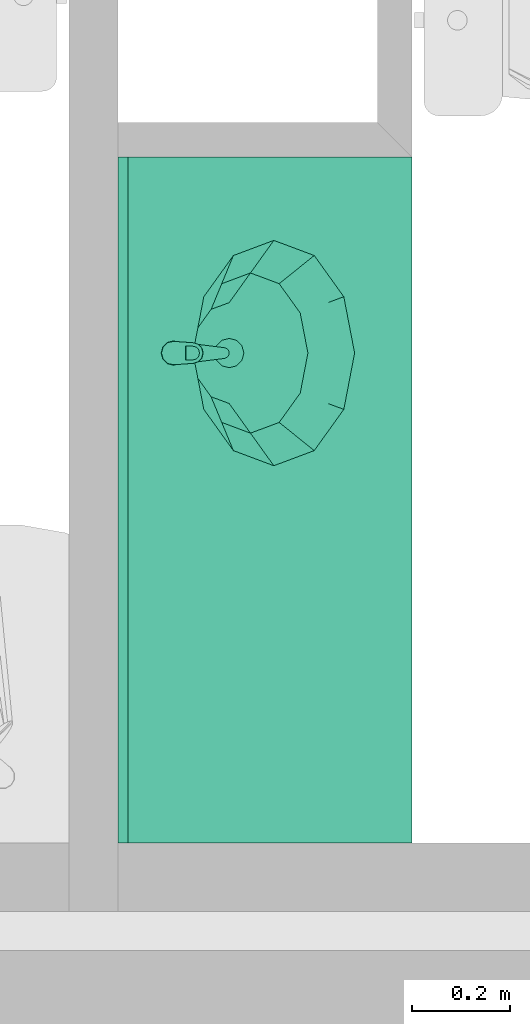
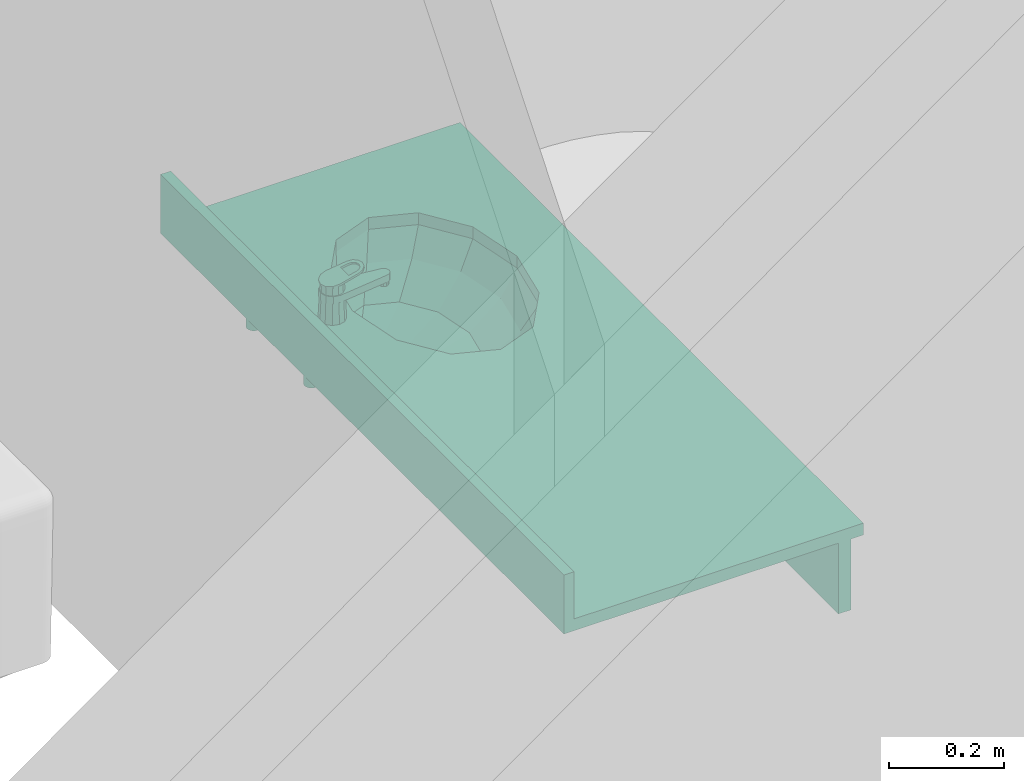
# One storey, part 30 of 34: 1 distribution element.
"""IFC2X3 building model written with IfcOpenShell, lengths in metres."""

from ifc_helpers import new_model, entity, si_unit, converted_unit, derived_unit, money_unit, direction, frame, origin_with_axes, place, context, subcontext, project, spatial, open_shell, faceted_brep, surface_model, type_object, element, save


model = new_model("IFC2X3")

# Units and contexts
model_context = context("Model", 3, precision=1e-05, world=origin_with_axes(), true_north=direction((0.0, 1.0)))
body_context = subcontext(model_context, "Body", "Model", "MODEL_VIEW")
ifc_project = project(units=[si_unit("LENGTHUNIT", "METRE"), si_unit("AREAUNIT", "SQUARE_METRE"), si_unit("VOLUMEUNIT", "CUBIC_METRE"), converted_unit("PLANEANGLEUNIT", "DEGREE", entity("IfcPlaneAngleMeasure", 0.0174532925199), si_unit("PLANEANGLEUNIT", "RADIAN"), dimensions=[0, 0, 0, 0, 0, 0, 0]), money_unit("CHF"), converted_unit("TIMEUNIT", "Year", entity("IfcTimeMeasure", 31556926.0), si_unit("TIMEUNIT", "SECOND"), dimensions=[0, 0, 1, 0, 0, 0, 0]), si_unit("MASSUNIT", "GRAM", prefix="KILO"), si_unit("THERMODYNAMICTEMPERATUREUNIT", "DEGREE_CELSIUS"), si_unit("LUMINOUSINTENSITYUNIT", "LUMEN"), si_unit("ENERGYUNIT", "JOULE", prefix="MEGA"), derived_unit("THERMALCONDUCTANCEUNIT", [(si_unit("POWERUNIT", "WATT"), 1), (si_unit("LENGTHUNIT", "METRE"), -1), (si_unit("THERMODYNAMICTEMPERATUREUNIT", "KELVIN"), -1)]), derived_unit("SPECIFICHEATCAPACITYUNIT", [(si_unit("ENERGYUNIT", "JOULE"), 1), (si_unit("MASSUNIT", "GRAM", prefix="KILO"), -1), (si_unit("THERMODYNAMICTEMPERATUREUNIT", "KELVIN"), -1)]), derived_unit("MASSDENSITYUNIT", [(si_unit("MASSUNIT", "GRAM", prefix="KILO"), 1), (si_unit("VOLUMEUNIT", "CUBIC_METRE"), -1)])], contexts=[model_context])

# Site, building, storey
site_placement = place(None, origin_with_axes())
site = spatial("IfcSite", under=ifc_project, at=site_placement, Name="Site", CompositionType="ELEMENT")
building_placement = place(site_placement, origin_with_axes())
building = spatial("IfcBuilding", under=site, at=building_placement, Name="Bâtiment", CompositionType="ELEMENT")
storey_placement = place(building_placement, origin_with_axes())
storey = spatial("IfcBuildingStorey", under=building, at=storey_placement, Name="RDC", CompositionType="ELEMENT", Elevation=-5.32907e-15)

# Distribution element
distribution_element_type = type_object("IfcDistributionElementType", Name="Plan multi vasques 25")
distribution_element_placement = place(storey_placement, frame((1669.3948228, 183.17004191, 0.47), z_axis=(0.0, 0.0, 1.0), x_axis=(0.0, 1.0, 0.0)))
element("IfcDistributionElement", 1, at=distribution_element_placement, inside=storey, type_object=distribution_element_type, Name="Protection-011", context=body_context, shape_type="SurfaceModel", body=[
    surface_model("IfcShellBasedSurfaceModel", [(0.4, -0.027, 0.875), (0.4, -0.027, 0.855), (0.403494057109, -0.0265399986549, 0.855), (0.403494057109, -0.0265399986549, 0.875), (0.396505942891, -0.0265399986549, 0.875), (0.396505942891, -0.0265399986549, 0.855), (0.40675, -0.0251913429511, 0.855), (0.40675, -0.0251913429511, 0.875), (0.39325, -0.0251913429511, 0.875), (0.39325, -0.0251913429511, 0.855), (0.409545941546, -0.023045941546, 0.855), (0.409545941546, -0.023045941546, 0.875), (0.390454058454, -0.023045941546, 0.875), (0.390454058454, -0.023045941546, 0.855), (0.411691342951, -0.02025, 0.855), (0.411691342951, -0.02025, 0.875), (0.388308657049, -0.02025, 0.875), (0.388308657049, -0.02025, 0.855), (0.413039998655, -0.0169940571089, 0.855), (0.413039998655, -0.0169940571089, 0.875), (0.386960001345, -0.0169940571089, 0.875), (0.386960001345, -0.0169940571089, 0.855), (0.4135, -0.0135, 0.855), (0.4135, -0.0135, 0.875), (0.3865, -0.0135, 0.875), (0.3865, -0.0135, 0.855), (0.413039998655, -0.0100059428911, 0.855), (0.413039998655, -0.0100059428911, 0.875), (0.386960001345, -0.0100059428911, 0.875), (0.386960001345, -0.0100059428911, 0.855), (0.411691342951, -0.00675, 0.855), (0.411691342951, -0.00675, 0.875), (0.388308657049, -0.00675, 0.875), (0.388308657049, -0.00675, 0.855), (0.409545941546, -0.00395405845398, 0.855), (0.409545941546, -0.00395405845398, 0.875), (0.390454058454, -0.00395405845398, 0.875), (0.390454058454, -0.00395405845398, 0.855), (0.40675, -0.00180865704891, 0.855), (0.40675, -0.00180865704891, 0.875), (0.39325, -0.00180865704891, 0.875), (0.39325, -0.00180865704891, 0.855), (0.403494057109, -0.000460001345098, 0.855), (0.403494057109, -0.000460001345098, 0.875), (0.396505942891, -0.000460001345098, 0.875), (0.396505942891, -0.000460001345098, 0.855), (0.4, 0.0, 0.855), (0.4, 0.0, 0.875)], [open_shell([[[0, 1, 2, 3]], [[4, 5, 1, 0]], [[3, 2, 6, 7]], [[8, 9, 5, 4]], [[7, 6, 10, 11]], [[12, 13, 9, 8]], [[11, 10, 14, 15]], [[16, 17, 13, 12]], [[15, 14, 18, 19]], [[20, 21, 17, 16]], [[19, 18, 22, 23]], [[24, 25, 21, 20]], [[23, 22, 26, 27]], [[28, 29, 25, 24]], [[27, 26, 30, 31]], [[32, 33, 29, 28]], [[31, 30, 34, 35]], [[36, 37, 33, 32]], [[35, 34, 38, 39]], [[40, 41, 37, 36]], [[39, 38, 42, 43]], [[44, 45, 41, 40]], [[43, 42, 46, 47]], [[47, 46, 45, 44]]])]),
    surface_model("IfcShellBasedSurfaceModel", [(0.2, -0.027, 0.875), (0.2, -0.027, 0.855), (0.203494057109, -0.0265399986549, 0.855), (0.203494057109, -0.0265399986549, 0.875), (0.196505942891, -0.0265399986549, 0.875), (0.196505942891, -0.0265399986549, 0.855), (0.20675, -0.0251913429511, 0.855), (0.20675, -0.0251913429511, 0.875), (0.19325, -0.0251913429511, 0.875), (0.19325, -0.0251913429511, 0.855), (0.209545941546, -0.023045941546, 0.855), (0.209545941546, -0.023045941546, 0.875), (0.190454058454, -0.023045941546, 0.875), (0.190454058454, -0.023045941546, 0.855), (0.211691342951, -0.02025, 0.855), (0.211691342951, -0.02025, 0.875), (0.188308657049, -0.02025, 0.875), (0.188308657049, -0.02025, 0.855), (0.213039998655, -0.0169940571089, 0.855), (0.213039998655, -0.0169940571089, 0.875), (0.186960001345, -0.0169940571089, 0.875), (0.186960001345, -0.0169940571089, 0.855), (0.2135, -0.0135, 0.855), (0.2135, -0.0135, 0.875), (0.1865, -0.0135, 0.875), (0.1865, -0.0135, 0.855), (0.213039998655, -0.0100059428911, 0.855), (0.213039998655, -0.0100059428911, 0.875), (0.186960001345, -0.0100059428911, 0.875), (0.186960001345, -0.0100059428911, 0.855), (0.211691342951, -0.00675, 0.855), (0.211691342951, -0.00675, 0.875), (0.188308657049, -0.00675, 0.875), (0.188308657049, -0.00675, 0.855), (0.209545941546, -0.00395405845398, 0.855), (0.209545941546, -0.00395405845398, 0.875), (0.190454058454, -0.00395405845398, 0.875), (0.190454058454, -0.00395405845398, 0.855), (0.20675, -0.00180865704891, 0.855), (0.20675, -0.00180865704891, 0.875), (0.19325, -0.00180865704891, 0.875), (0.19325, -0.00180865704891, 0.855), (0.203494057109, -0.000460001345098, 0.855), (0.203494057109, -0.000460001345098, 0.875), (0.196505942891, -0.000460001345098, 0.875), (0.196505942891, -0.000460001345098, 0.855), (0.2, 0.0, 0.855), (0.2, 0.0, 0.875)], [open_shell([[[0, 1, 2, 3]], [[4, 5, 1, 0]], [[3, 2, 6, 7]], [[8, 9, 5, 4]], [[7, 6, 10, 11]], [[12, 13, 9, 8]], [[11, 10, 14, 15]], [[16, 17, 13, 12]], [[15, 14, 18, 19]], [[20, 21, 17, 16]], [[19, 18, 22, 23]], [[24, 25, 21, 20]], [[23, 22, 26, 27]], [[28, 29, 25, 24]], [[27, 26, 30, 31]], [[32, 33, 29, 28]], [[31, 30, 34, 35]], [[36, 37, 33, 32]], [[35, 34, 38, 39]], [[40, 41, 37, 36]], [[39, 38, 42, 43]], [[44, 45, 41, 40]], [[43, 42, 46, 47]], [[47, 46, 45, 44]]])]),
    surface_model("IfcShellBasedSurfaceModel", [(0.3, -0.248112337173, 0.733), (0.3, -0.248112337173, 0.713), (0.305435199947, -0.247396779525, 0.713), (0.305435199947, -0.247396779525, 0.733), (0.294564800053, -0.247396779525, 0.733), (0.294564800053, -0.247396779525, 0.713), (0.3105, -0.245298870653, 0.713), (0.3105, -0.245298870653, 0.733), (0.2895, -0.245298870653, 0.733), (0.2895, -0.245298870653, 0.713), (0.314849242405, -0.241961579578, 0.713), (0.314849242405, -0.241961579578, 0.733), (0.285150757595, -0.241961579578, 0.733), (0.285150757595, -0.241961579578, 0.713), (0.318186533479, -0.237612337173, 0.713), (0.318186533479, -0.237612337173, 0.733), (0.281813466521, -0.237612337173, 0.733), (0.281813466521, -0.237612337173, 0.713), (0.320284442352, -0.23254753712, 0.713), (0.320284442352, -0.23254753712, 0.733), (0.279715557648, -0.23254753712, 0.733), (0.279715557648, -0.23254753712, 0.713), (0.321, -0.227112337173, 0.713), (0.321, -0.227112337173, 0.733), (0.279, -0.227112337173, 0.733), (0.279, -0.227112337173, 0.713), (0.320284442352, -0.221677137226, 0.713), (0.320284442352, -0.221677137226, 0.733), (0.279715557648, -0.221677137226, 0.733), (0.279715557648, -0.221677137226, 0.713), (0.318186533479, -0.216612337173, 0.713), (0.318186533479, -0.216612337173, 0.733), (0.281813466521, -0.216612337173, 0.733), (0.281813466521, -0.216612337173, 0.713), (0.314849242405, -0.212263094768, 0.713), (0.314849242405, -0.212263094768, 0.733), (0.285150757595, -0.212263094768, 0.733), (0.285150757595, -0.212263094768, 0.713), (0.3105, -0.208925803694, 0.713), (0.3105, -0.208925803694, 0.733), (0.2895, -0.208925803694, 0.733), (0.2895, -0.208925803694, 0.713), (0.305435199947, -0.206827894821, 0.713), (0.305435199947, -0.206827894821, 0.733), (0.294564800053, -0.206827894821, 0.733), (0.294564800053, -0.206827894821, 0.713), (0.3, -0.206112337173, 0.713), (0.3, -0.206112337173, 0.733)], [open_shell([[[0, 1, 2, 3]], [[4, 5, 1, 0]], [[3, 2, 6, 7]], [[8, 9, 5, 4]], [[7, 6, 10, 11]], [[12, 13, 9, 8]], [[11, 10, 14, 15]], [[16, 17, 13, 12]], [[15, 14, 18, 19]], [[20, 21, 17, 16]], [[19, 18, 22, 23]], [[24, 25, 21, 20]], [[23, 22, 26, 27]], [[28, 29, 25, 24]], [[27, 26, 30, 31]], [[32, 33, 29, 28]], [[31, 30, 34, 35]], [[36, 37, 33, 32]], [[35, 34, 38, 39]], [[40, 41, 37, 36]], [[39, 38, 42, 43]], [[44, 45, 41, 40]], [[43, 42, 46, 47]], [[47, 46, 45, 44]]])]),
    faceted_brep([(0.7, 0.0, 0.875), (0.7, -0.6, 0.875), (-0.7, -0.6, 0.875), (-0.7, 0.0, 0.875), (0.185, -0.461098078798, 0.875), (0.3, -0.483203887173, 0.875), (0.415, -0.461098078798, 0.875), (0.49918584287, -0.400703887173, 0.875), (0.53, -0.318203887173, 0.875), (0.49918584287, -0.235703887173, 0.875), (0.415, -0.175309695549, 0.875), (0.3, -0.153203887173, 0.875), (0.185, -0.175309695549, 0.875), (0.10081415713, -0.235703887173, 0.875), (0.07, -0.318203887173, 0.875), (0.10081415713, -0.400703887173, 0.875), (0.7, 0.0, 0.9), (0.7, -0.6, 0.9), (-0.7, -0.6, 0.9), (-0.7, 0.0, 0.9), (0.3, -0.483203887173, 0.9), (0.185, -0.461098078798, 0.9), (0.415, -0.461098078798, 0.9), (0.49918584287, -0.400703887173, 0.9), (0.53, -0.318203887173, 0.9), (0.49918584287, -0.235703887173, 0.9), (0.415, -0.175309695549, 0.9), (0.3, -0.153203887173, 0.9), (0.185, -0.175309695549, 0.9), (0.10081415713, -0.235703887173, 0.9), (0.07, -0.318203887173, 0.9), (0.10081415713, -0.400703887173, 0.9)], [[[0, 1, 2, 3], [4, 5, 6, 7, 8, 9, 10, 11, 12, 13, 14, 15]], [[1, 0, 16, 17]], [[2, 1, 17, 18]], [[3, 2, 18, 19]], [[0, 3, 19, 16]], [[20, 5, 4, 21]], [[22, 6, 5, 20]], [[23, 7, 6, 22]], [[24, 8, 7, 23]], [[25, 9, 8, 24]], [[26, 10, 9, 25]], [[27, 11, 10, 26]], [[28, 12, 11, 27]], [[29, 13, 12, 28]], [[30, 14, 13, 29]], [[31, 15, 14, 30]], [[21, 4, 15, 31]], [[18, 17, 16, 19], [28, 27, 26, 25, 24, 23, 22, 20, 21, 31, 30, 29]]]),
    faceted_brep([(0.7, -0.02, 0.9), (0.7, -0.02, 1.0), (-0.7, -0.02, 1.0), (-0.7, -0.02, 0.9), (0.7, 0.0, 0.9), (0.7, 0.0, 1.0), (-0.7, 0.0, 1.0), (-0.7, 0.0, 0.9)], [[[0, 1, 2, 3]], [[4, 5, 1, 0]], [[1, 5, 6, 2]], [[3, 2, 6, 7]], [[0, 3, 7, 4]], [[7, 6, 5, 4]]]),
    faceted_brep([(0.7, -0.575, 0.725), (0.7, -0.575, 0.875), (-0.7, -0.575, 0.875), (-0.7, -0.575, 0.725), (0.7, -0.55, 0.725), (0.7, -0.55, 0.875), (-0.7, -0.55, 0.875), (-0.7, -0.55, 0.725)], [[[0, 1, 2, 3]], [[4, 5, 1, 0]], [[1, 5, 6, 2]], [[3, 2, 6, 7]], [[0, 3, 7, 4]], [[7, 6, 5, 4]]]),
    surface_model("IfcShellBasedSurfaceModel", [(0.3, -0.153203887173, 0.875), (0.185, -0.175309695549, 0.875), (0.1965, -0.173099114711, 0.823), (0.3, -0.153203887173, 0.823), (0.10081415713, -0.235703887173, 0.875), (0.120732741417, -0.227453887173, 0.823), (0.415, -0.175309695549, 0.875), (0.4035, -0.173099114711, 0.823), (0.07, -0.318203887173, 0.875), (0.093, -0.301703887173, 0.823), (0.49918584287, -0.235703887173, 0.875), (0.479267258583, -0.227453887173, 0.823), (0.10081415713, -0.400703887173, 0.875), (0.120732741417, -0.375953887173, 0.823), (0.53, -0.318203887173, 0.875), (0.507, -0.301703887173, 0.823), (0.185, -0.461098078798, 0.875), (0.1965, -0.430308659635, 0.823), (0.49918584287, -0.400703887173, 0.875), (0.479267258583, -0.375953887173, 0.823), (0.3, -0.483203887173, 0.875), (0.3, -0.450203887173, 0.823), (0.415, -0.461098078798, 0.875), (0.4035, -0.430308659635, 0.823)], [open_shell([[[0, 1, 2, 3]], [[1, 4, 5, 2]], [[6, 0, 3, 7]], [[4, 8, 9, 5]], [[10, 6, 7, 11]], [[8, 12, 13, 9]], [[14, 10, 11, 15]], [[12, 16, 17, 13]], [[18, 14, 15, 19]], [[16, 20, 21, 17]], [[22, 18, 19, 23]], [[20, 22, 23, 21]]])]),
    surface_model("IfcShellBasedSurfaceModel", [(0.3, -0.153203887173, 0.823), (0.1965, -0.173099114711, 0.823), (0.218235, -0.168921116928, 0.771), (0.3, -0.153203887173, 0.771), (0.120732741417, -0.227453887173, 0.823), (0.158378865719, -0.211861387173, 0.771), (0.4035, -0.173099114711, 0.823), (0.381765, -0.168921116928, 0.771), (0.093, -0.301703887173, 0.823), (0.13647, -0.270518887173, 0.771), (0.479267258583, -0.227453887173, 0.823), (0.441621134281, -0.211861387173, 0.771), (0.120732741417, -0.375953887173, 0.823), (0.158378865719, -0.329176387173, 0.771), (0.507, -0.301703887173, 0.823), (0.46353, -0.270518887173, 0.771), (0.1965, -0.430308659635, 0.823), (0.218235, -0.372116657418, 0.771), (0.479267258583, -0.375953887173, 0.823), (0.441621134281, -0.329176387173, 0.771), (0.3, -0.450203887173, 0.823), (0.3, -0.387833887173, 0.771), (0.4035, -0.430308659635, 0.823), (0.381765, -0.372116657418, 0.771)], [open_shell([[[0, 1, 2, 3]], [[1, 4, 5, 2]], [[6, 0, 3, 7]], [[4, 8, 9, 5]], [[10, 6, 7, 11]], [[8, 12, 13, 9]], [[14, 10, 11, 15]], [[12, 16, 17, 13]], [[18, 14, 15, 19]], [[16, 20, 21, 17]], [[22, 18, 19, 23]], [[20, 22, 23, 21]]])]),
    surface_model("IfcShellBasedSurfaceModel", [(0.3, -0.153203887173, 0.771), (0.218235, -0.168921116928, 0.771), (0.24848805, -0.163105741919, 0.745), (0.3, -0.153203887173, 0.745), (0.158378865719, -0.211861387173, 0.771), (0.210778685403, -0.190158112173, 0.745), (0.381765, -0.168921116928, 0.771), (0.35151195, -0.163105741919, 0.745), (0.13647, -0.270518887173, 0.771), (0.1969761, -0.227112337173, 0.745), (0.441621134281, -0.211861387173, 0.771), (0.389221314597, -0.190158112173, 0.745), (0.158378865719, -0.329176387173, 0.771), (0.210778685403, -0.264066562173, 0.745), (0.46353, -0.270518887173, 0.771), (0.4030239, -0.227112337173, 0.745), (0.218235, -0.372116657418, 0.771), (0.24848805, -0.291118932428, 0.745), (0.441621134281, -0.329176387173, 0.771), (0.389221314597, -0.264066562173, 0.745), (0.3, -0.387833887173, 0.771), (0.3, -0.301020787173, 0.745), (0.381765, -0.372116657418, 0.771), (0.35151195, -0.291118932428, 0.745)], [open_shell([[[0, 1, 2, 3]], [[1, 4, 5, 2]], [[6, 0, 3, 7]], [[4, 8, 9, 5]], [[10, 6, 7, 11]], [[8, 12, 13, 9]], [[14, 10, 11, 15]], [[12, 16, 17, 13]], [[18, 14, 15, 19]], [[16, 20, 21, 17]], [[22, 18, 19, 23]], [[20, 22, 23, 21]]])]),
    surface_model("IfcShellBasedSurfaceModel", [(0.3, -0.153203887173, 0.745), (0.24848805, -0.163105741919, 0.745), (0.285, -0.20113157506, 0.738), (0.274019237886, -0.212112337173, 0.738), (0.3, -0.197112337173, 0.738), (0.210778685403, -0.190158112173, 0.745), (0.35151195, -0.163105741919, 0.745), (0.27, -0.227112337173, 0.738), (0.315, -0.20113157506, 0.738), (0.1969761, -0.227112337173, 0.745), (0.389221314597, -0.190158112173, 0.745), (0.274019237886, -0.242112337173, 0.738), (0.325980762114, -0.212112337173, 0.738), (0.210778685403, -0.264066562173, 0.745), (0.4030239, -0.227112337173, 0.745), (0.285, -0.253093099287, 0.738), (0.33, -0.227112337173, 0.738), (0.24848805, -0.291118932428, 0.745), (0.389221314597, -0.264066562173, 0.745), (0.3, -0.257112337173, 0.738), (0.325980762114, -0.242112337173, 0.738), (0.3, -0.301020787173, 0.745), (0.35151195, -0.291118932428, 0.745), (0.315, -0.253093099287, 0.738)], [open_shell([[[0, 1, 2]], [[1, 3, 2]], [[0, 2, 4]], [[1, 5, 3]], [[6, 0, 4]], [[5, 7, 3]], [[6, 4, 8]], [[5, 9, 7]], [[10, 6, 8]], [[9, 11, 7]], [[10, 8, 12]], [[9, 13, 11]], [[14, 10, 12]], [[13, 15, 11]], [[14, 12, 16]], [[13, 17, 15]], [[18, 14, 16]], [[17, 19, 15]], [[18, 16, 20]], [[17, 21, 19]], [[22, 18, 20]], [[21, 23, 19]], [[22, 20, 23]], [[21, 22, 23]]])]),
    surface_model("IfcShellBasedSurfaceModel", [(0.27, -0.227112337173, 0.738), (0.274019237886, -0.212112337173, 0.738), (0.274019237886, -0.212112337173, 0.733), (0.27, -0.227112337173, 0.733), (0.285, -0.20113157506, 0.738), (0.285, -0.20113157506, 0.733), (0.3, -0.197112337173, 0.733), (0.315, -0.20113157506, 0.733), (0.325980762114, -0.212112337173, 0.733), (0.33, -0.227112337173, 0.733), (0.325980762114, -0.242112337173, 0.733), (0.315, -0.253093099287, 0.733), (0.3, -0.257112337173, 0.733), (0.285, -0.253093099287, 0.733), (0.274019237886, -0.242112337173, 0.733), (0.274019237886, -0.242112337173, 0.738), (0.3, -0.197112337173, 0.738), (0.315, -0.20113157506, 0.738), (0.325980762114, -0.212112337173, 0.738), (0.33, -0.227112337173, 0.738), (0.325980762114, -0.242112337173, 0.738), (0.315, -0.253093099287, 0.738), (0.3, -0.257112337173, 0.738), (0.285, -0.253093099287, 0.738)], [open_shell([[[0, 1, 2, 3]], [[1, 4, 5, 2]], [[3, 2, 5, 6, 7, 8, 9, 10, 11, 12, 13, 14]], [[15, 0, 3, 14]], [[4, 16, 6, 5]], [[16, 17, 7, 6]], [[17, 18, 8, 7]], [[18, 19, 9, 8]], [[19, 20, 10, 9]], [[20, 21, 11, 10]], [[21, 22, 12, 11]], [[22, 23, 13, 12]], [[23, 15, 14, 13]]])]),
    faceted_brep([(0.2875, -0.0915532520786, 0.9), (0.289412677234, -0.0948661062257, 0.976507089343), (0.3, -0.0920019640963, 0.975961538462), (0.3, -0.0882038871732, 0.9), (0.278349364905, -0.100703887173, 0.9), (0.281726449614, -0.102653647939, 0.977990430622), (0.279, -0.113203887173, 0.98), (0.281899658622, -0.12365412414, 0.981990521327), (0.289585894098, -0.131241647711, 0.983435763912), (0.3, -0.134005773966, 0.983962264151), (0.310414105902, -0.131241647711, 0.983435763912), (0.318100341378, -0.12365412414, 0.981990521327), (0.321, -0.113203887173, 0.98), (0.318273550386, -0.102653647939, 0.977990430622), (0.310587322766, -0.0948661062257, 0.976507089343), (0.3125, -0.0915532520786, 0.9), (0.321650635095, -0.100703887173, 0.9), (0.325, -0.113203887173, 0.9), (0.321650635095, -0.125703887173, 0.9), (0.3125, -0.134854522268, 0.9), (0.3, -0.138203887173, 0.9), (0.2875, -0.134854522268, 0.9), (0.278349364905, -0.125703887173, 0.9), (0.275, -0.113203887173, 0.9)], [[[0, 1, 2, 3]], [[4, 5, 1, 0]], [[1, 5, 6, 7, 8, 9, 10, 11, 12, 13, 14, 2]], [[3, 2, 14, 15]], [[0, 3, 15, 16, 17, 18, 19, 20, 21, 22, 23, 4]], [[23, 6, 5, 4]], [[22, 7, 6, 23]], [[21, 8, 7, 22]], [[20, 9, 8, 21]], [[19, 10, 9, 20]], [[18, 11, 10, 19]], [[17, 12, 11, 18]], [[16, 13, 12, 17]], [[15, 14, 13, 16]]]),
    faceted_brep([(0.291, -0.216203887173, 0.935), (0.291, -0.216203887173, 0.945), (0.292205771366, -0.211703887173, 0.945), (0.292205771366, -0.211703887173, 0.935), (0.292205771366, -0.220703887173, 0.935), (0.292205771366, -0.220703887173, 0.945), (0.2955, -0.223998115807, 0.945), (0.3, -0.225203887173, 0.945), (0.3045, -0.223998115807, 0.945), (0.307794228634, -0.220703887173, 0.945), (0.309, -0.216203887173, 0.945), (0.307794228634, -0.211703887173, 0.945), (0.3045, -0.208409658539, 0.945), (0.3, -0.207203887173, 0.945), (0.2955, -0.208409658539, 0.945), (0.2955, -0.208409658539, 0.935), (0.3, -0.207203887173, 0.935), (0.3045, -0.208409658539, 0.935), (0.307794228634, -0.211703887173, 0.935), (0.309, -0.216203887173, 0.935), (0.307794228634, -0.220703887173, 0.935), (0.3045, -0.223998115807, 0.935), (0.3, -0.225203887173, 0.935), (0.2955, -0.223998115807, 0.935)], [[[0, 1, 2, 3]], [[4, 5, 1, 0]], [[1, 5, 6, 7, 8, 9, 10, 11, 12, 13, 14, 2]], [[3, 2, 14, 15]], [[0, 3, 15, 16, 17, 18, 19, 20, 21, 22, 23, 4]], [[23, 6, 5, 4]], [[22, 7, 6, 23]], [[21, 8, 7, 22]], [[20, 9, 8, 21]], [[19, 10, 9, 20]], [[18, 11, 10, 19]], [[17, 12, 11, 18]], [[16, 13, 12, 17]], [[15, 14, 13, 16]]]),
    faceted_brep([(0.312871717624, -0.0929475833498, 0.96), (0.29999999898, -0.0892039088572, 0.96), (0.287128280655, -0.0929475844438, 0.96), (0.278272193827, -0.10301068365, 0.96), (0.276194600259, -0.116253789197, 0.96), (0.289088, -0.217592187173, 0.96), (0.290971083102, -0.222487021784, 0.96), (0.294906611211, -0.225953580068, 0.96), (0.299999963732, -0.227203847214, 0.96), (0.305093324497, -0.225953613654, 0.96), (0.309028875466, -0.222487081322, 0.96), (0.310911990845, -0.217592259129, 0.96), (0.3238054, -0.116253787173, 0.96), (0.321727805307, -0.103010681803, 0.96), (0.289, -0.09415132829, 0.96), (0.3, -0.0912038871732, 0.96), (0.311, -0.09415132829, 0.96), (0.319052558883, -0.102203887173, 0.96), (0.322, -0.113203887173, 0.96), (0.319052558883, -0.124203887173, 0.96), (0.311, -0.132256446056, 0.96), (0.3, -0.135203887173, 0.96), (0.289, -0.132256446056, 0.96), (0.280947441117, -0.124203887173, 0.96), (0.278, -0.113203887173, 0.96), (0.280947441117, -0.102203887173, 0.96), (0.312871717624, -0.0929475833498, 0.945), (0.29999999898, -0.0892039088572, 0.945), (0.287128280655, -0.0929475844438, 0.945), (0.278272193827, -0.10301068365, 0.945), (0.276194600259, -0.116253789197, 0.945), (0.289088, -0.217592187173, 0.945), (0.290971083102, -0.222487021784, 0.945), (0.294906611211, -0.225953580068, 0.945), (0.299999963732, -0.227203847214, 0.945), (0.305093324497, -0.225953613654, 0.945), (0.309028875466, -0.222487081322, 0.945), (0.310911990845, -0.217592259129, 0.945), (0.3238054, -0.116253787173, 0.945), (0.321727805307, -0.103010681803, 0.945), (0.3, -0.0904538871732, 0.945), (0.288625, -0.0935018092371, 0.945), (0.311375, -0.0935018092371, 0.945), (0.319702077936, -0.101828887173, 0.945), (0.32275, -0.113203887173, 0.945), (0.319702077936, -0.124578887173, 0.945), (0.311375, -0.132905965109, 0.945), (0.3, -0.135953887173, 0.945), (0.288625, -0.132905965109, 0.945), (0.280297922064, -0.124578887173, 0.945), (0.27725, -0.113203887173, 0.945), (0.280297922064, -0.101828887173, 0.945)], [[[0, 1, 2, 3, 4, 5, 6, 7, 8, 9, 10, 11, 12, 13], [14, 15, 16, 17, 18, 19, 20, 21, 22, 23, 24, 25]], [[26, 27, 1, 0]], [[27, 28, 2, 1]], [[28, 29, 3, 2]], [[29, 30, 4, 3]], [[30, 31, 5, 4]], [[31, 32, 6, 5]], [[32, 33, 7, 6]], [[33, 34, 8, 7]], [[34, 35, 9, 8]], [[35, 36, 10, 9]], [[36, 37, 11, 10]], [[37, 38, 12, 11]], [[38, 39, 13, 12]], [[39, 26, 0, 13]], [[40, 15, 14, 41]], [[42, 16, 15, 40]], [[16, 42, 43, 17]], [[17, 43, 44, 18]], [[18, 44, 45, 19]], [[19, 45, 46, 20]], [[20, 46, 47, 21]], [[48, 22, 21, 47]], [[49, 23, 22, 48]], [[50, 24, 23, 49]], [[51, 25, 24, 50]], [[41, 14, 25, 51]], [[34, 33, 32, 31, 30, 29, 28, 27, 26, 39, 38, 37, 36, 35], [48, 47, 46, 45, 44, 43, 42, 40, 41, 51, 50, 49]]]),
    faceted_brep([(0.276107, -0.114896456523, 0.980322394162), (0.276107, -0.114148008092, 0.984251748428), (0.278703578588, -0.101680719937, 0.981877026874), (0.278703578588, -0.102429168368, 0.977947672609), (0.279054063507, -0.15504058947, 0.987968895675), (0.279054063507, -0.154292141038, 0.991898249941), (0.282336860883, -0.163969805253, 0.993741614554), (0.289938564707, -0.170919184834, 0.995065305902), (0.300000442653, -0.173441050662, 0.995545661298), (0.310062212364, -0.170918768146, 0.995065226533), (0.317663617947, -0.163969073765, 0.993741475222), (0.320946, -0.154291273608, 0.991898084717), (0.323893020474, -0.114147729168, 0.984251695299), (0.321296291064, -0.101680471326, 0.98187697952), (0.31247168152, -0.0923642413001, 0.980102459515), (0.299999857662, -0.0889234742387, 0.979447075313), (0.28752807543, -0.0923643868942, 0.980102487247), (0.286, -0.137996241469, 0.988794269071), (0.314, -0.137996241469, 0.988794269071), (0.314, -0.152811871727, 0.991616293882), (0.312124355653, -0.159688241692, 0.992926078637), (0.307, -0.164722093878, 0.993884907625), (0.3, -0.166564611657, 0.994235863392), (0.293, -0.164722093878, 0.993884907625), (0.287875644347, -0.159688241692, 0.992926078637), (0.286, -0.152811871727, 0.991616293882), (0.28752807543, -0.0931128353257, 0.976173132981), (0.299999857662, -0.0896719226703, 0.975517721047), (0.31247168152, -0.0931126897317, 0.976173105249), (0.321296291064, -0.102428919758, 0.977947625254), (0.323893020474, -0.1148961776, 0.980322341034), (0.320946, -0.15503972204, 0.987968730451), (0.317663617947, -0.164717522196, 0.989812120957), (0.310062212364, -0.171667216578, 0.991135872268), (0.300000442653, -0.174189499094, 0.991616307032), (0.289938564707, -0.171667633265, 0.991135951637), (0.282336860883, -0.164718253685, 0.989812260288), (0.286, -0.1387446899, 0.984864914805), (0.286, -0.153560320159, 0.987686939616), (0.287875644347, -0.160436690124, 0.988996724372), (0.293, -0.16547054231, 0.989955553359), (0.3, -0.167313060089, 0.990306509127), (0.307, -0.16547054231, 0.989955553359), (0.312124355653, -0.160436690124, 0.988996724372), (0.314, -0.153560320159, 0.987686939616), (0.314, -0.1387446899, 0.984864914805)], [[[0, 1, 2, 3]], [[4, 5, 1, 0]], [[1, 5, 6, 7, 8, 9, 10, 11, 12, 13, 14, 15, 16, 2], [17, 18, 19, 20, 21, 22, 23, 24, 25]], [[3, 2, 16, 26]], [[0, 3, 26, 27, 28, 29, 30, 31, 32, 33, 34, 35, 36, 4], [37, 38, 39, 40, 41, 42, 43, 44, 45]], [[36, 6, 5, 4]], [[35, 7, 6, 36]], [[34, 8, 7, 35]], [[33, 9, 8, 34]], [[32, 10, 9, 33]], [[31, 11, 10, 32]], [[30, 12, 11, 31]], [[29, 13, 12, 30]], [[28, 14, 13, 29]], [[27, 15, 14, 28]], [[26, 16, 15, 27]], [[45, 18, 17, 37]], [[44, 19, 18, 45]], [[43, 20, 19, 44]], [[42, 21, 20, 43]], [[41, 22, 21, 42]], [[40, 23, 22, 41]], [[39, 24, 23, 40]], [[38, 25, 24, 39]], [[37, 17, 25, 38]]]),
])

save(model, "model.ifc")
